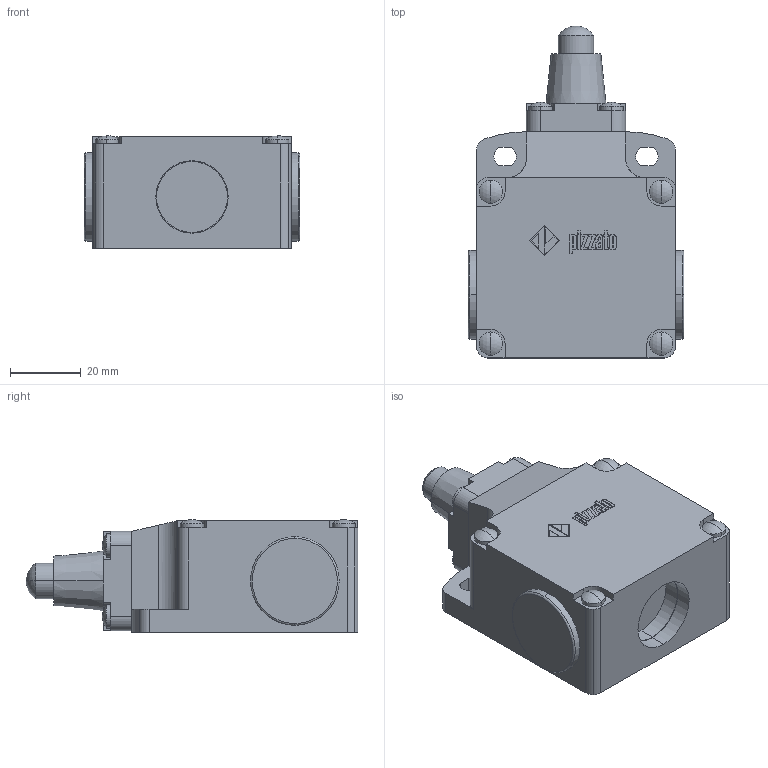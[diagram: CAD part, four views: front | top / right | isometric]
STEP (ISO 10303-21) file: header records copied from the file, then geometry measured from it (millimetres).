
FILE_DESCRIPTION (( 'STEP AP214' ), '1' );
FILE_NAME ('ZF_STEP_FL_x11_A10.step', '2014-04-10T09:04:15', ( 'utente' ), ( 'Microsoft' ), 'SwSTEP 2.0', 'SolidWorks 2013', '' );
FILE_SCHEMA (( 'AUTOMOTIVE_DESIGN' ));
Length unit declared in the file: millimetre
Products named in the file (6): ZF_STEP_FL_x11_A10; ZF_STEP_VF_T11_A10; Pizzato_Pistoncino_T11; Pizzato_Supporto_T11; Pizzato_Tappo_Protezione_PG13_M20_PG13; Pizzato_Custodia_FL
Assembly tree (6 placements, depth 3):
  ZF_STEP_FL_x11_A10
    Pizzato_Custodia_FL
    Pizzato_Tappo_Protezione_PG13_M20_PG13  x2
    ZF_STEP_VF_T11_A10
      Pizzato_Supporto_T11
      Pizzato_Pistoncino_T11
Bounding box: 60.8 x 93.6 x 31.8 mm (x, y, z)
Volume: 108176.4 mm3; surface area: 24432.8 mm2
Topology: 5 solids, 5 shells, 449 faces, 1150 edges, 761 vertices
Faces by surface type: plane 258, cylinder 94, bspline 73, sphere 18, torus 4, cone 2
Entity records: 16944 total; most frequent: CARTESIAN_POINT 6286, ORIENTED_EDGE 2268, DIRECTION 1944, EDGE_CURVE 1134, VECTOR 782, LINE 782, VERTEX_POINT 751, AXIS2_PLACEMENT_3D 581
